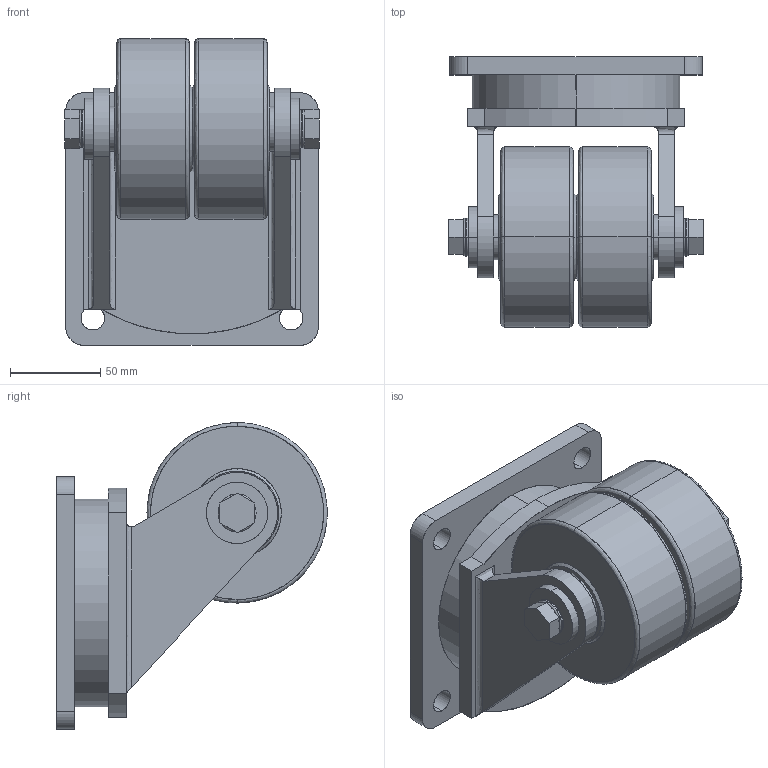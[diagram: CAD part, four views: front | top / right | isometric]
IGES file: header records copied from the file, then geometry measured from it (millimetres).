
Start section: SolidWorks IGES file using analytic representation for surfaces
Global section: file name: C:\Users\辫屈霖\Desktop\快老魂诀(130303)\WHMT-100SF-MD.IGS; native system: SolidWorks 2012; preprocessor: SolidWorks 2012; author: 辫屈霖,,1; organization: 1; date: 130402.225107; units: millimetre
Bounding box: 141 x 150 x 170 mm (x, y, z)
Surface area: 189953.8 mm2 (no closed solid volume)
Topology: 0 solids, 0 shells, 145 faces, 3214 edges, 3214 vertices
Faces by surface type: bspline 79, revolution 66
